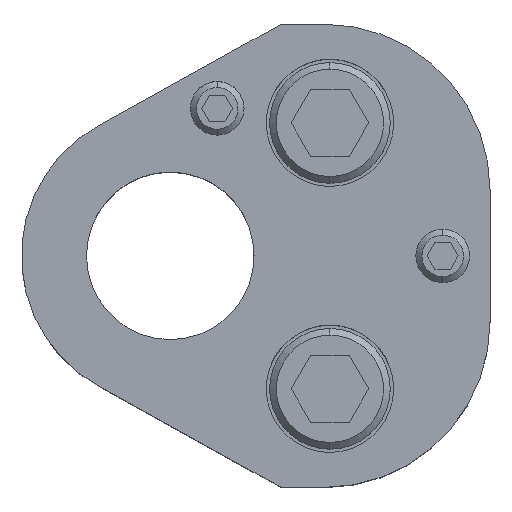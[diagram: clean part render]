
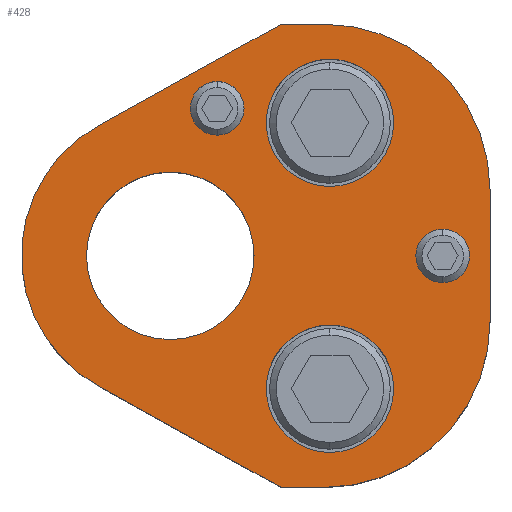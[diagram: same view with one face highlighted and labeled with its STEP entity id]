
A CAD part, top view. The second image highlights one B-rep face of the part: STEP entity #428.
In plain terms, the highlighted planar face has unit normal (0, 0, 1).
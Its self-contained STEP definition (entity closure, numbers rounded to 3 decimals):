
#198=FACE_BOUND('',#745,.T.);
#199=FACE_BOUND('',#746,.T.);
#200=FACE_BOUND('',#747,.T.);
#201=FACE_BOUND('',#748,.T.);
#202=FACE_BOUND('',#749,.T.);
#203=FACE_BOUND('',#750,.T.);
#276=CIRCLE('',#2330,24.7);
#278=CIRCLE('',#2334,24.7);
#281=CIRCLE('',#2340,22.2);
#282=CIRCLE('',#2342,4.);
#284=CIRCLE('',#2345,4.);
#286=CIRCLE('',#2348,4.);
#288=CIRCLE('',#2351,4.);
#298=CIRCLE('',#2366,9.5);
#299=CIRCLE('',#2367,9.5);
#300=CIRCLE('',#2368,9.5);
#301=CIRCLE('',#2369,9.5);
#302=CIRCLE('',#2370,12.5);
#303=CIRCLE('',#2371,12.5);
#428=ADVANCED_FACE('',(#198,#199,#200,#201,#202,#203),#522,.T.);
#522=PLANE('',#2372);
#745=EDGE_LOOP('',(#1129,#1130,#1131,#1132,#1133,#1134,#1135,#1136));
#746=EDGE_LOOP('',(#1137,#1138));
#747=EDGE_LOOP('',(#1139,#1140));
#748=EDGE_LOOP('',(#1141,#1142));
#749=EDGE_LOOP('',(#1143,#1144));
#750=EDGE_LOOP('',(#1145,#1146));
#1129=ORIENTED_EDGE('',*,*,#1724,.T.);
#1130=ORIENTED_EDGE('',*,*,#1728,.T.);
#1131=ORIENTED_EDGE('',*,*,#1731,.T.);
#1132=ORIENTED_EDGE('',*,*,#1734,.T.);
#1133=ORIENTED_EDGE('',*,*,#1737,.T.);
#1134=ORIENTED_EDGE('',*,*,#1740,.T.);
#1135=ORIENTED_EDGE('',*,*,#1743,.T.);
#1136=ORIENTED_EDGE('',*,*,#1746,.T.);
#1137=ORIENTED_EDGE('',*,*,#1771,.F.);
#1138=ORIENTED_EDGE('',*,*,#1772,.F.);
#1139=ORIENTED_EDGE('',*,*,#1773,.F.);
#1140=ORIENTED_EDGE('',*,*,#1774,.F.);
#1141=ORIENTED_EDGE('',*,*,#1757,.F.);
#1142=ORIENTED_EDGE('',*,*,#1753,.F.);
#1143=ORIENTED_EDGE('',*,*,#1751,.F.);
#1144=ORIENTED_EDGE('',*,*,#1747,.F.);
#1145=ORIENTED_EDGE('',*,*,#1775,.T.);
#1146=ORIENTED_EDGE('',*,*,#1776,.T.);
#1492=VERTEX_POINT('',#3476);
#1493=VERTEX_POINT('',#3478);
#1496=VERTEX_POINT('',#3485);
#1498=VERTEX_POINT('',#3491);
#1500=VERTEX_POINT('',#3497);
#1502=VERTEX_POINT('',#3503);
#1504=VERTEX_POINT('',#3509);
#1506=VERTEX_POINT('',#3515);
#1507=VERTEX_POINT('',#3523);
#1508=VERTEX_POINT('',#3524);
#1511=VERTEX_POINT('',#3535);
#1512=VERTEX_POINT('',#3536);
#1523=VERTEX_POINT('',#3571);
#1524=VERTEX_POINT('',#3572);
#1525=VERTEX_POINT('',#3575);
#1526=VERTEX_POINT('',#3576);
#1527=VERTEX_POINT('',#3579);
#1528=VERTEX_POINT('',#3580);
#1724=EDGE_CURVE('',#1493,#1492,#1968,.T.);
#1728=EDGE_CURVE('',#1492,#1496,#1972,.T.);
#1731=EDGE_CURVE('',#1496,#1498,#276,.T.);
#1734=EDGE_CURVE('',#1498,#1500,#1976,.T.);
#1737=EDGE_CURVE('',#1500,#1502,#278,.T.);
#1740=EDGE_CURVE('',#1502,#1504,#1980,.T.);
#1743=EDGE_CURVE('',#1504,#1506,#1983,.T.);
#1746=EDGE_CURVE('',#1506,#1493,#281,.T.);
#1747=EDGE_CURVE('',#1507,#1508,#282,.T.);
#1751=EDGE_CURVE('',#1508,#1507,#284,.T.);
#1753=EDGE_CURVE('',#1511,#1512,#286,.T.);
#1757=EDGE_CURVE('',#1512,#1511,#288,.T.);
#1771=EDGE_CURVE('',#1523,#1524,#298,.T.);
#1772=EDGE_CURVE('',#1524,#1523,#299,.T.);
#1773=EDGE_CURVE('',#1525,#1526,#300,.T.);
#1774=EDGE_CURVE('',#1526,#1525,#301,.T.);
#1775=EDGE_CURVE('',#1527,#1528,#302,.T.);
#1776=EDGE_CURVE('',#1528,#1527,#303,.T.);
#1968=LINE('',#3477,#2132);
#1972=LINE('',#3486,#2136);
#1976=LINE('',#3498,#2140);
#1980=LINE('',#3510,#2144);
#1983=LINE('',#3516,#2147);
#2132=VECTOR('',#2758,1.);
#2136=VECTOR('',#2764,1.);
#2140=VECTOR('',#2776,1.);
#2144=VECTOR('',#2788,1.);
#2147=VECTOR('',#2793,1.);
#2330=AXIS2_PLACEMENT_3D('',#3492,#2769,#2770);
#2334=AXIS2_PLACEMENT_3D('',#3504,#2781,#2782);
#2340=AXIS2_PLACEMENT_3D('',#3520,#2799,#2800);
#2342=AXIS2_PLACEMENT_3D('',#3522,#2803,#2804);
#2345=AXIS2_PLACEMENT_3D('',#3531,#2811,#2812);
#2348=AXIS2_PLACEMENT_3D('',#3534,#2817,#2818);
#2351=AXIS2_PLACEMENT_3D('',#3543,#2825,#2826);
#2366=AXIS2_PLACEMENT_3D('',#3570,#2859,#2860);
#2367=AXIS2_PLACEMENT_3D('',#3573,#2861,#2862);
#2368=AXIS2_PLACEMENT_3D('',#3574,#2863,#2864);
#2369=AXIS2_PLACEMENT_3D('',#3577,#2865,#2866);
#2370=AXIS2_PLACEMENT_3D('',#3578,#2867,#2868);
#2371=AXIS2_PLACEMENT_3D('',#3581,#2869,#2870);
#2372=AXIS2_PLACEMENT_3D('',#3582,#2871,#2872);
#2758=DIRECTION('',(0.875,-0.485,0.));
#2764=DIRECTION('',(1.,0.,0.));
#2769=DIRECTION('',(0.,0.,1.));
#2770=DIRECTION('',(-0.707,0.707,0.));
#2776=DIRECTION('',(0.,1.,0.));
#2781=DIRECTION('',(0.,0.,1.));
#2782=DIRECTION('',(-0.707,-0.707,0.));
#2788=DIRECTION('',(-1.,0.,0.));
#2793=DIRECTION('',(-0.875,-0.485,0.));
#2799=DIRECTION('',(0.,0.,1.));
#2800=DIRECTION('',(1.,0.,0.));
#2803=DIRECTION('',(0.,0.,1.));
#2804=DIRECTION('',(-1.,0.,0.));
#2811=DIRECTION('',(0.,0.,1.));
#2812=DIRECTION('',(1.,0.,0.));
#2817=DIRECTION('',(0.,0.,1.));
#2818=DIRECTION('',(-1.,0.,0.));
#2825=DIRECTION('',(0.,0.,1.));
#2826=DIRECTION('',(1.,0.,0.));
#2859=DIRECTION('',(0.,0.,1.));
#2860=DIRECTION('',(1.,0.,0.));
#2861=DIRECTION('',(0.,0.,1.));
#2862=DIRECTION('',(-1.,0.,0.));
#2863=DIRECTION('',(0.,0.,1.));
#2864=DIRECTION('',(1.,0.,0.));
#2865=DIRECTION('',(0.,0.,1.));
#2866=DIRECTION('',(-1.,0.,0.));
#2867=DIRECTION('',(0.,0.,-1.));
#2868=DIRECTION('',(-1.,0.,0.));
#2869=DIRECTION('',(0.,0.,-1.));
#2870=DIRECTION('',(1.,0.,0.));
#2871=DIRECTION('',(0.,0.,1.));
#2872=DIRECTION('',(-0.875,0.485,0.));
#3476=CARTESIAN_POINT('',(16.539,-34.55,32.));
#3477=CARTESIAN_POINT('',(16.539,-34.55,32.));
#3478=CARTESIAN_POINT('',(-10.763,-19.417,32.));
#3485=CARTESIAN_POINT('',(23.,-34.55,32.));
#3486=CARTESIAN_POINT('',(16.539,-34.55,32.));
#3491=CARTESIAN_POINT('',(47.7,-9.85,32.));
#3492=CARTESIAN_POINT('',(23.,-9.85,32.));
#3497=CARTESIAN_POINT('',(47.7,9.85,32.));
#3498=CARTESIAN_POINT('',(47.7,9.85,32.));
#3503=CARTESIAN_POINT('',(23.,34.55,32.));
#3504=CARTESIAN_POINT('',(23.,9.85,32.));
#3509=CARTESIAN_POINT('',(16.539,34.55,32.));
#3510=CARTESIAN_POINT('',(16.539,34.55,32.));
#3515=CARTESIAN_POINT('',(-10.763,19.417,32.));
#3516=CARTESIAN_POINT('',(16.539,34.55,32.));
#3520=CARTESIAN_POINT('',(0.,0.,32.));
#3522=CARTESIAN_POINT('',(7.,22.,32.));
#3523=CARTESIAN_POINT('',(7.,18.,32.));
#3524=CARTESIAN_POINT('',(7.,26.,32.));
#3531=CARTESIAN_POINT('',(7.,22.,32.));
#3534=CARTESIAN_POINT('',(40.64,0.,32.));
#3535=CARTESIAN_POINT('',(40.64,-4.,32.));
#3536=CARTESIAN_POINT('',(40.64,4.,32.));
#3543=CARTESIAN_POINT('',(40.64,0.,32.));
#3570=CARTESIAN_POINT('',(23.82,19.84,32.));
#3571=CARTESIAN_POINT('',(23.82,29.34,32.));
#3572=CARTESIAN_POINT('',(23.82,10.34,32.));
#3573=CARTESIAN_POINT('',(23.82,19.84,32.));
#3574=CARTESIAN_POINT('',(23.82,-19.84,32.));
#3575=CARTESIAN_POINT('',(23.82,-10.34,32.));
#3576=CARTESIAN_POINT('',(23.82,-29.34,32.));
#3577=CARTESIAN_POINT('',(23.82,-19.84,32.));
#3578=CARTESIAN_POINT('',(0.,0.,32.));
#3579=CARTESIAN_POINT('',(0.,12.5,32.));
#3580=CARTESIAN_POINT('',(0.,-12.5,32.));
#3581=CARTESIAN_POINT('',(0.,0.,32.));
#3582=CARTESIAN_POINT('',(-10.763,-19.417,32.));
